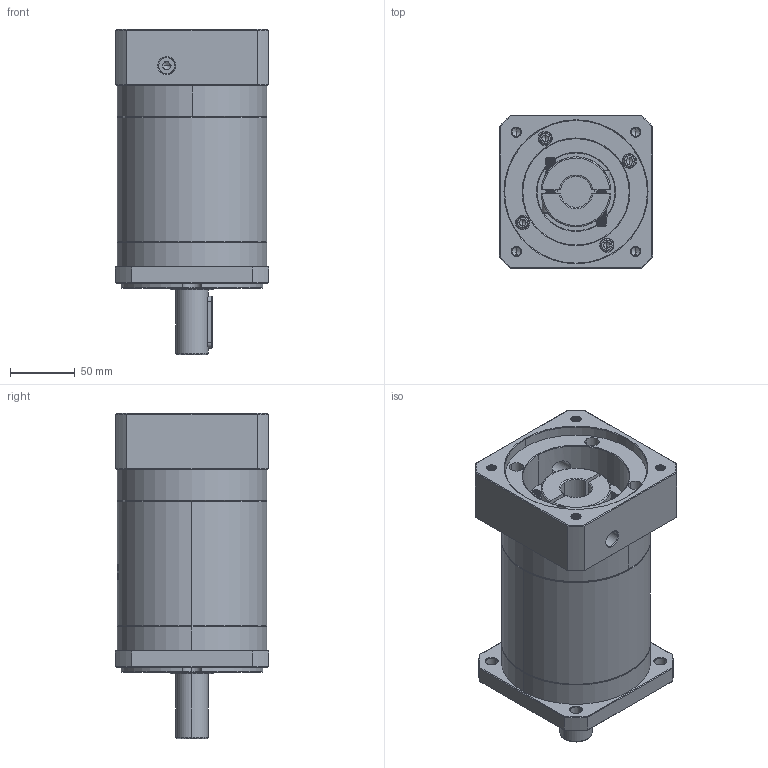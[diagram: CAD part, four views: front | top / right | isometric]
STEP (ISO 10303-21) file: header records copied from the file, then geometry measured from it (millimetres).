
FILE_DESCRIPTION (( 'STEP AP214' ), '1' );
FILE_NAME ('ZF120A-D25-L3-P2-24-110-130-M8.step', '2023-08-27T04:42:29', ( '' ), ( '' ), 'SwSTEP 2.0', 'SolidWorks 2016', '' );
FILE_SCHEMA (( 'AUTOMOTIVE_DESIGN' ));
Length unit declared in the file: millimetre
Products named in the file (1): ZF120A-D25-L3-P2-24-110-130-M8
Bounding box: 118 x 118 x 250.5 mm (x, y, z)
Volume: 2033730.5 mm3; surface area: 186869.4 mm2
Topology: 6 solids, 6 shells, 2219 faces, 5887 edges, 3773 vertices
Faces by surface type: plane 1034, cylinder 422, bspline 419, cone 324, torus 20
Entity records: 122694 total; most frequent: CARTESIAN_POINT 48612, ORIENTED_EDGE 11714, DIRECTION 8486, EDGE_CURVE 5857, VERTEX_POINT 3773, VECTOR 3092, LINE 3092, AXIS2_PLACEMENT_3D 2697
